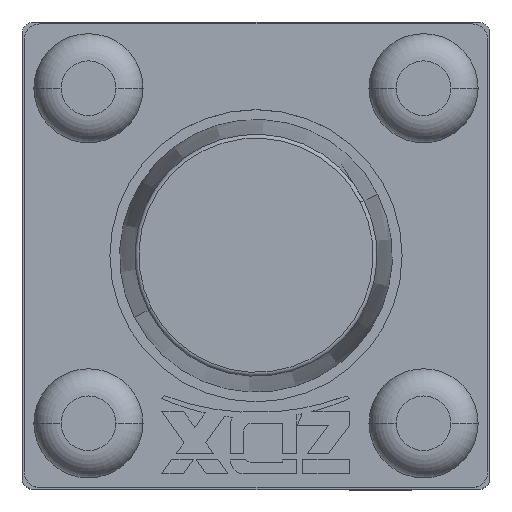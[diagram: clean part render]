
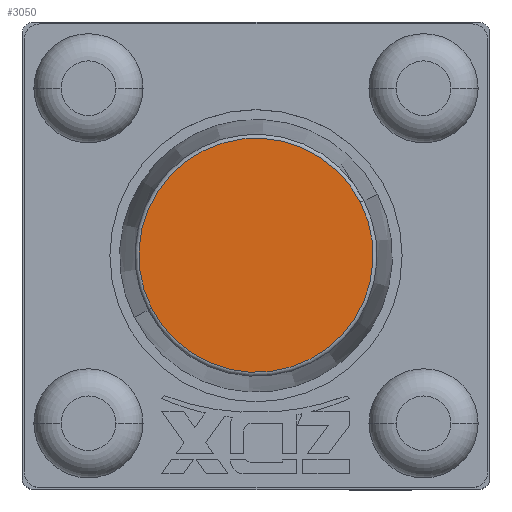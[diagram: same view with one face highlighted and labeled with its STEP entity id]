
A CAD part, top view. The second image highlights one B-rep face of the part: STEP entity #3050.
In plain terms, the highlighted planar face has unit normal (0, 0, 1).
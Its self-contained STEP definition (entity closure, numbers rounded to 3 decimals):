
#1035=CARTESIAN_POINT('',(2.764,30.226,5.1));
#1036=DIRECTION('',(0.,0.,-1.));
#1037=DIRECTION('',(0.892,0.453,0.));
#1038=AXIS2_PLACEMENT_3D('',#1035,#1036,#1037);
#1040=CARTESIAN_POINT('',(2.764,30.226,5.1));
#1041=DIRECTION('',(0.,0.,-1.));
#1042=DIRECTION('',(-0.892,-0.453,0.));
#1043=AXIS2_PLACEMENT_3D('',#1040,#1041,#1042);
#1455=CARTESIAN_POINT('',(1.424,29.546,5.1));
#1456=VERTEX_POINT('',#1455);
#1457=CARTESIAN_POINT('',(4.103,30.906,5.1));
#1458=VERTEX_POINT('',#1457);
#3041=CARTESIAN_POINT('',(2.764,30.226,5.1));
#3042=DIRECTION('',(0.,0.,1.));
#3043=DIRECTION('',(-0.892,-0.453,0.));
#3044=AXIS2_PLACEMENT_3D('',#3041,#3042,#3043);
#3045=PLANE('',#3044);
#3046=ORIENTED_EDGE('',*,*,#3021,.T.);
#3047=ORIENTED_EDGE('',*,*,#3034,.T.);
#3048=EDGE_LOOP('',(#3046,#3047));
#3049=FACE_OUTER_BOUND('',#3048,.F.);
#1039=CIRCLE('',#1038,1.503);
#1044=CIRCLE('',#1043,1.503);
#3021=EDGE_CURVE('',#1458,#1456,#1039,.T.);
#3034=EDGE_CURVE('',#1456,#1458,#1044,.T.);
#3050=ADVANCED_FACE('',(#3049),#3045,.T.);
